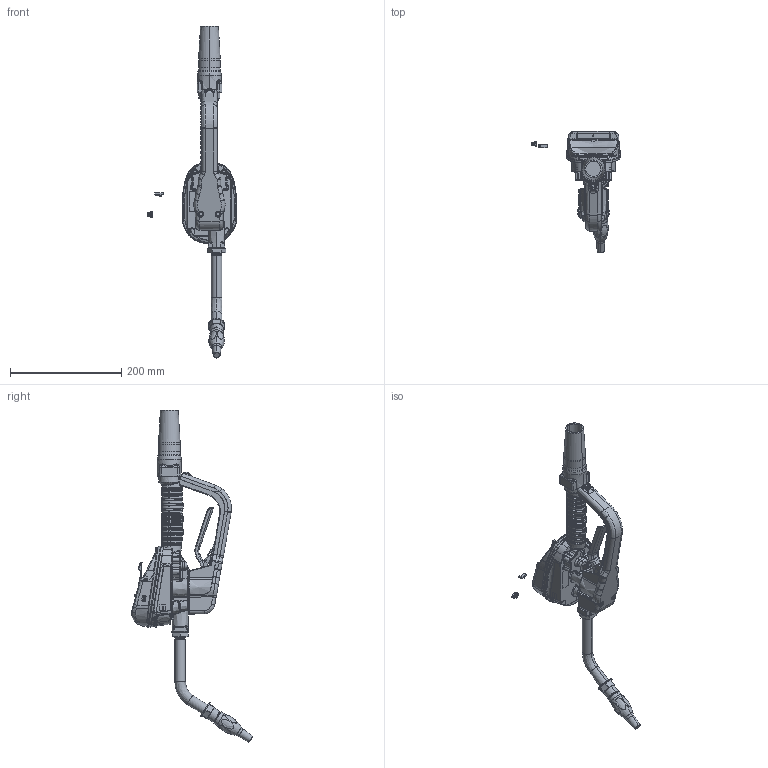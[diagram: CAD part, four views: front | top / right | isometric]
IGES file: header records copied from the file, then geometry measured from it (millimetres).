
Start section:  PTC IGES file: 26c384-en-f.igs
Global section: file name: 26c384-en-f.igs; native system: Creo Parametric by PTC Inc.; preprocessor: 2019030; author: qusrh3; organization: Unknown; date: 20200518.163052; units: inch
Bounding box: 159.82 x 218.42 x 597.19 mm (x, y, z)
Surface area: 260667 mm2 (no closed solid volume)
Topology: 0 solids, 0 shells, 2620 faces, 12907 edges, 12903 vertices
Faces by surface type: bspline 1770, revolution 836, extrusion 14
